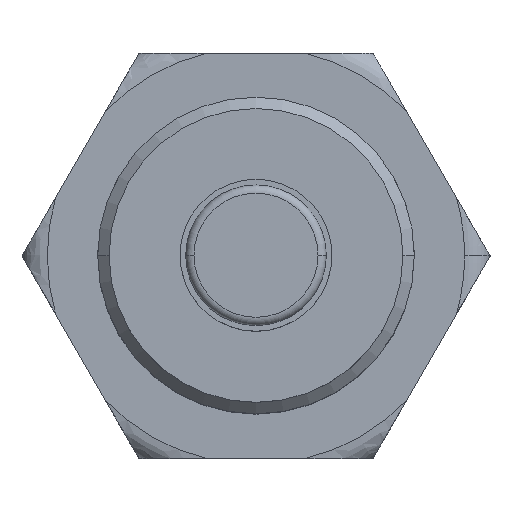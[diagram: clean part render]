
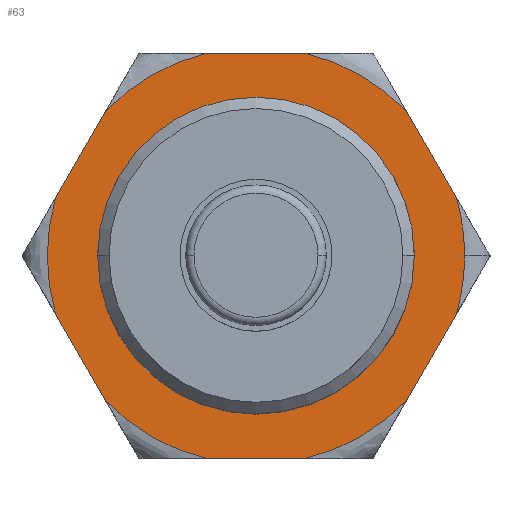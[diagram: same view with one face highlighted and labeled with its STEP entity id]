
A CAD part, top view. The second image highlights one B-rep face of the part: STEP entity #63.
In plain terms, the highlighted planar face has unit normal (0, 0, 1).
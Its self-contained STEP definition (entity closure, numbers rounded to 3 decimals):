
#7 = AXIS2_PLACEMENT_3D ( 'NONE', #1866, #1537, #1878 ) ;
#28 = CARTESIAN_POINT ( 'NONE',  ( -11.892, -11.402, 3. ) ) ;
#30 = PLANE ( 'NONE',  #179 ) ;
#43 = CIRCLE ( 'NONE', #553, 16.475 ) ;
#63 = ADVANCED_FACE ( 'NONE', ( #1160, #1809 ), #30, .F. ) ;
#64 = CARTESIAN_POINT ( 'NONE',  ( 15.821, 4.598, 3. ) ) ;
#87 = ORIENTED_EDGE ( 'NONE', *, *, #1316, .T. ) ;
#95 = CARTESIAN_POINT ( 'NONE',  ( 9.238, -16., 3. ) ) ;
#114 = CIRCLE ( 'NONE', #7, 16.475 ) ;
#136 = EDGE_CURVE ( 'NONE', #336, #545, #562, .T. ) ;
#140 = ORIENTED_EDGE ( 'NONE', *, *, #1379, .T. ) ;
#142 = VERTEX_POINT ( 'NONE', #761 ) ;
#150 = AXIS2_PLACEMENT_3D ( 'NONE', #1998, #236, #546 ) ;
#179 = AXIS2_PLACEMENT_3D ( 'NONE', #376, #1017, #1656 ) ;
#206 = EDGE_CURVE ( 'NONE', #505, #842, #1714, .T. ) ;
#236 = DIRECTION ( 'NONE',  ( 0., 0., 1. ) ) ;
#248 = ORIENTED_EDGE ( 'NONE', *, *, #206, .T. ) ;
#255 = AXIS2_PLACEMENT_3D ( 'NONE', #1533, #1196, #271 ) ;
#259 = EDGE_LOOP ( 'NONE', ( #1984, #273 ) ) ;
#271 = DIRECTION ( 'NONE',  ( 1., 0., 0. ) ) ;
#273 = ORIENTED_EDGE ( 'NONE', *, *, #662, .F. ) ;
#289 = AXIS2_PLACEMENT_3D ( 'NONE', #680, #1143, #1022 ) ;
#306 = EDGE_CURVE ( 'NONE', #2073, #593, #1829, .T. ) ;
#321 = ORIENTED_EDGE ( 'NONE', *, *, #1131, .T. ) ;
#336 = VERTEX_POINT ( 'NONE', #1664 ) ;
#339 = ORIENTED_EDGE ( 'NONE', *, *, #1090, .T. ) ;
#346 = DIRECTION ( 'NONE',  ( 1., 0., 0. ) ) ;
#376 = CARTESIAN_POINT ( 'NONE',  ( 0., -32., 3. ) ) ;
#379 = VERTEX_POINT ( 'NONE', #1991 ) ;
#412 = ORIENTED_EDGE ( 'NONE', *, *, #422, .T. ) ;
#422 = EDGE_CURVE ( 'NONE', #142, #379, #114, .T. ) ;
#428 = DIRECTION ( 'NONE',  ( 1., 0., 0. ) ) ;
#439 = CARTESIAN_POINT ( 'NONE',  ( 9.238, 16., 3. ) ) ;
#455 = CIRCLE ( 'NONE', #1270, 16.475 ) ;
#456 = VERTEX_POINT ( 'NONE', #1246 ) ;
#468 = VERTEX_POINT ( 'NONE', #1391 ) ;
#499 = VECTOR ( 'NONE', #1393, 1000. ) ;
#502 = CIRCLE ( 'NONE', #568, 12.5 ) ;
#505 = VERTEX_POINT ( 'NONE', #919 ) ;
#529 = CARTESIAN_POINT ( 'NONE',  ( 18.475, 0., 3. ) ) ;
#545 = VERTEX_POINT ( 'NONE', #776 ) ;
#546 = DIRECTION ( 'NONE',  ( 1., 0., 0. ) ) ;
#553 = AXIS2_PLACEMENT_3D ( 'NONE', #1815, #1790, #346 ) ;
#562 = LINE ( 'NONE', #1725, #616 ) ;
#568 = AXIS2_PLACEMENT_3D ( 'NONE', #671, #1484, #860 ) ;
#573 = CARTESIAN_POINT ( 'NONE',  ( 0., 0., 3. ) ) ;
#593 = VERTEX_POINT ( 'NONE', #632 ) ;
#610 = ORIENTED_EDGE ( 'NONE', *, *, #136, .T. ) ;
#613 = ORIENTED_EDGE ( 'NONE', *, *, #881, .T. ) ;
#616 = VECTOR ( 'NONE', #751, 1000. ) ;
#626 = DIRECTION ( 'NONE',  ( 0.5, -0.866, 0. ) ) ;
#632 = CARTESIAN_POINT ( 'NONE',  ( -15.821, 4.598, 3. ) ) ;
#647 = VERTEX_POINT ( 'NONE', #1292 ) ;
#651 = VECTOR ( 'NONE', #1180, 1000. ) ;
#662 = EDGE_CURVE ( 'NONE', #1915, #456, #891, .T. ) ;
#671 = CARTESIAN_POINT ( 'NONE',  ( 0., 0., 3. ) ) ;
#675 = ORIENTED_EDGE ( 'NONE', *, *, #764, .T. ) ;
#680 = CARTESIAN_POINT ( 'NONE',  ( 0., 0., 3. ) ) ;
#685 = EDGE_CURVE ( 'NONE', #379, #1947, #43, .T. ) ;
#751 = DIRECTION ( 'NONE',  ( 1., 0., 0. ) ) ;
#761 = CARTESIAN_POINT ( 'NONE',  ( 15.821, -4.598, 3. ) ) ;
#764 = EDGE_CURVE ( 'NONE', #1947, #1378, #1487, .T. ) ;
#776 = CARTESIAN_POINT ( 'NONE',  ( 3.928, -16., 3. ) ) ;
#779 = CARTESIAN_POINT ( 'NONE',  ( 0., 0., 3. ) ) ;
#783 = CIRCLE ( 'NONE', #150, 16.475 ) ;
#842 = VERTEX_POINT ( 'NONE', #1032 ) ;
#860 = DIRECTION ( 'NONE',  ( 1., 0., 0. ) ) ;
#868 = EDGE_LOOP ( 'NONE', ( #675, #321, #248, #613, #1000, #87, #339, #937, #610, #140, #1693, #412, #1576 ) ) ;
#869 = EDGE_CURVE ( 'NONE', #1188, #336, #783, .T. ) ;
#871 = CARTESIAN_POINT ( 'NONE',  ( 12.5, 0., 3. ) ) ;
#881 = EDGE_CURVE ( 'NONE', #842, #2073, #2005, .T. ) ;
#891 = CIRCLE ( 'NONE', #289, 12.5 ) ;
#901 = LINE ( 'NONE', #95, #499 ) ;
#912 = DIRECTION ( 'NONE',  ( 0., 0., 1. ) ) ;
#919 = CARTESIAN_POINT ( 'NONE',  ( 3.928, 16., 3. ) ) ;
#937 = ORIENTED_EDGE ( 'NONE', *, *, #869, .T. ) ;
#942 = CARTESIAN_POINT ( 'NONE',  ( -18.475, 0., 3. ) ) ;
#973 = DIRECTION ( 'NONE',  ( 0., 0., 1. ) ) ;
#978 = DIRECTION ( 'NONE',  ( -0.5, 0.866, 0. ) ) ;
#985 = VECTOR ( 'NONE', #1083, 1000. ) ;
#1000 = ORIENTED_EDGE ( 'NONE', *, *, #306, .T. ) ;
#1017 = DIRECTION ( 'NONE',  ( 0., 0., -1. ) ) ;
#1022 = DIRECTION ( 'NONE',  ( 1., 0., 0. ) ) ;
#1032 = CARTESIAN_POINT ( 'NONE',  ( -3.928, 16., 3. ) ) ;
#1083 = DIRECTION ( 'NONE',  ( -1., 0., 0. ) ) ;
#1090 = EDGE_CURVE ( 'NONE', #468, #1188, #1424, .T. ) ;
#1131 = EDGE_CURVE ( 'NONE', #1378, #505, #455, .T. ) ;
#1143 = DIRECTION ( 'NONE',  ( 0., 0., 1. ) ) ;
#1160 = FACE_BOUND ( 'NONE', #259, .T. ) ;
#1180 = DIRECTION ( 'NONE',  ( -0.5, -0.866, 0. ) ) ;
#1186 = CARTESIAN_POINT ( 'NONE',  ( -11.892, 11.402, 3. ) ) ;
#1188 = VERTEX_POINT ( 'NONE', #28 ) ;
#1196 = DIRECTION ( 'NONE',  ( 0., 0., 1. ) ) ;
#1236 = DIRECTION ( 'NONE',  ( 1., 0., 0. ) ) ;
#1246 = CARTESIAN_POINT ( 'NONE',  ( -12.5, 0., 3. ) ) ;
#1249 = CIRCLE ( 'NONE', #1922, 16.475 ) ;
#1267 = VECTOR ( 'NONE', #978, 1000. ) ;
#1270 = AXIS2_PLACEMENT_3D ( 'NONE', #779, #973, #1278 ) ;
#1278 = DIRECTION ( 'NONE',  ( 1., 0., 0. ) ) ;
#1292 = CARTESIAN_POINT ( 'NONE',  ( 11.892, -11.402, 3. ) ) ;
#1316 = EDGE_CURVE ( 'NONE', #593, #468, #1249, .T. ) ;
#1378 = VERTEX_POINT ( 'NONE', #1538 ) ;
#1379 = EDGE_CURVE ( 'NONE', #545, #647, #1478, .T. ) ;
#1391 = CARTESIAN_POINT ( 'NONE',  ( -15.821, -4.598, 3. ) ) ;
#1393 = DIRECTION ( 'NONE',  ( 0.5, 0.866, 0. ) ) ;
#1403 = DIRECTION ( 'NONE',  ( 0., 0., 1. ) ) ;
#1419 = EDGE_CURVE ( 'NONE', #647, #142, #901, .T. ) ;
#1424 = LINE ( 'NONE', #942, #1802 ) ;
#1478 = CIRCLE ( 'NONE', #1746, 16.475 ) ;
#1484 = DIRECTION ( 'NONE',  ( 0., 0., 1. ) ) ;
#1487 = LINE ( 'NONE', #529, #1267 ) ;
#1533 = CARTESIAN_POINT ( 'NONE',  ( 0., 0., 3. ) ) ;
#1537 = DIRECTION ( 'NONE',  ( 0., 0., 1. ) ) ;
#1538 = CARTESIAN_POINT ( 'NONE',  ( 11.892, 11.402, 3. ) ) ;
#1576 = ORIENTED_EDGE ( 'NONE', *, *, #685, .T. ) ;
#1656 = DIRECTION ( 'NONE',  ( -1., 0., 0. ) ) ;
#1664 = CARTESIAN_POINT ( 'NONE',  ( -3.928, -16., 3. ) ) ;
#1693 = ORIENTED_EDGE ( 'NONE', *, *, #1419, .T. ) ;
#1714 = LINE ( 'NONE', #439, #985 ) ;
#1725 = CARTESIAN_POINT ( 'NONE',  ( -9.238, -16., 3. ) ) ;
#1746 = AXIS2_PLACEMENT_3D ( 'NONE', #573, #912, #1236 ) ;
#1752 = CARTESIAN_POINT ( 'NONE',  ( 0., 0., 3. ) ) ;
#1790 = DIRECTION ( 'NONE',  ( 0., 0., 1. ) ) ;
#1802 = VECTOR ( 'NONE', #626, 1000. ) ;
#1809 = FACE_OUTER_BOUND ( 'NONE', #868, .T. ) ;
#1815 = CARTESIAN_POINT ( 'NONE',  ( 0., 0., 3. ) ) ;
#1829 = LINE ( 'NONE', #1981, #651 ) ;
#1866 = CARTESIAN_POINT ( 'NONE',  ( 0., 0., 3. ) ) ;
#1878 = DIRECTION ( 'NONE',  ( 1., 0., 0. ) ) ;
#1915 = VERTEX_POINT ( 'NONE', #871 ) ;
#1922 = AXIS2_PLACEMENT_3D ( 'NONE', #1752, #1403, #428 ) ;
#1923 = EDGE_CURVE ( 'NONE', #456, #1915, #502, .T. ) ;
#1947 = VERTEX_POINT ( 'NONE', #64 ) ;
#1981 = CARTESIAN_POINT ( 'NONE',  ( -9.238, 16., 3. ) ) ;
#1984 = ORIENTED_EDGE ( 'NONE', *, *, #1923, .F. ) ;
#1991 = CARTESIAN_POINT ( 'NONE',  ( 16.475, 0., 3. ) ) ;
#1998 = CARTESIAN_POINT ( 'NONE',  ( 0., 0., 3. ) ) ;
#2005 = CIRCLE ( 'NONE', #255, 16.475 ) ;
#2073 = VERTEX_POINT ( 'NONE', #1186 ) ;
